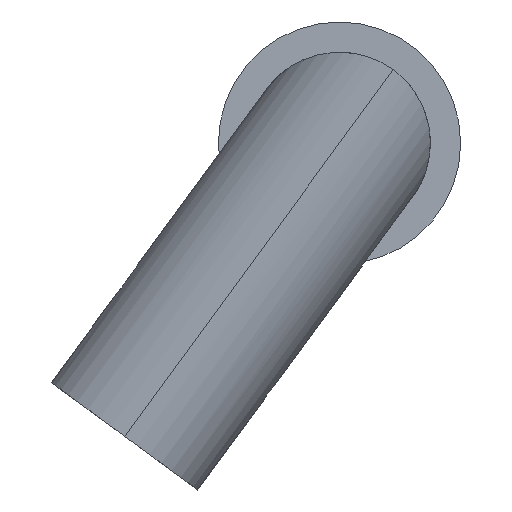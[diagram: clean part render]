
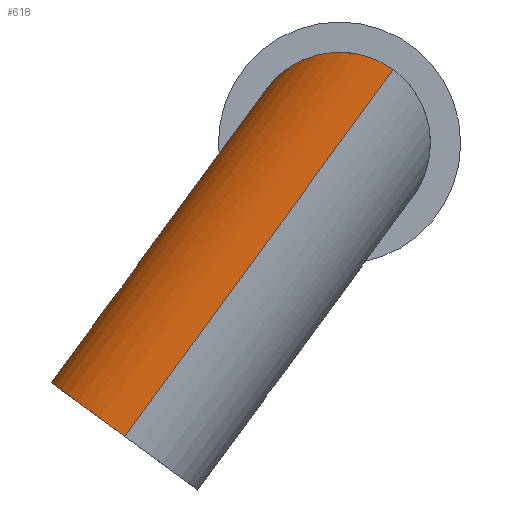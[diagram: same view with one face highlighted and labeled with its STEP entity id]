
A CAD part, left-side view. The second image highlights one B-rep face of the part: STEP entity #618.
In plain terms, the highlighted cylindrical face has radius 7.5 mm (diameter 15 mm), a partial arc.
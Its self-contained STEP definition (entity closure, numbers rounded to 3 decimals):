
#2 = VECTOR ( 'NONE', #1198, 1000. ) ;
#9 = ORIENTED_EDGE ( 'NONE', *, *, #496, .F. ) ;
#72 = CARTESIAN_POINT ( 'NONE',  ( -274.582, 17.444, -11.126 ) ) ;
#90 = CARTESIAN_POINT ( 'NONE',  ( -274.301, 18.086, -12.039 ) ) ;
#112 = CARTESIAN_POINT ( 'NONE',  ( -275.491, 17.482, -11.188 ) ) ;
#161 = LINE ( 'NONE', #322, #1306 ) ;
#187 = CARTESIAN_POINT ( 'NONE',  ( -274.301, 17.609, -11.389 ) ) ;
#191 = CARTESIAN_POINT ( 'NONE',  ( -275., 18.347, -12.341 ) ) ;
#205 = CARTESIAN_POINT ( 'NONE',  ( -275.699, 17.609, -11.39 ) ) ;
#219 = CARTESIAN_POINT ( 'NONE',  ( -275.713, 18.095, -12.052 ) ) ;
#222 = CARTESIAN_POINT ( 'NONE',  ( -275.492, 18.239, -12.22 ) ) ;
#247 = ORIENTED_EDGE ( 'NONE', *, *, #1271, .F. ) ;
#263 = DIRECTION ( 'NONE',  ( 1., 0., 0. ) ) ;
#282 = CARTESIAN_POINT ( 'NONE',  ( -267.5, 17.738, -24.195 ) ) ;
#286 = CARTESIAN_POINT ( 'NONE',  ( -274.221, 17.717, -11.55 ) ) ;
#289 = VERTEX_POINT ( 'NONE', #989 ) ;
#290 = CARTESIAN_POINT ( 'NONE',  ( -274.2, 17.776, -11.635 ) ) ;
#322 = CARTESIAN_POINT ( 'NONE',  ( -282.5, -4.937, 6.734 ) ) ;
#326 = DIRECTION ( 'NONE',  ( 0., 0.591, -0.806 ) ) ;
#379 = AXIS2_PLACEMENT_3D ( 'NONE', #633, #866, #263 ) ;
#391 = CARTESIAN_POINT ( 'NONE',  ( -274.2, 17.901, -11.805 ) ) ;
#405 = CARTESIAN_POINT ( 'NONE',  ( -275., 17.401, -11.05 ) ) ;
#408 = CARTESIAN_POINT ( 'NONE',  ( -275.403, 17.452, -11.138 ) ) ;
#420 = CARTESIAN_POINT ( 'NONE',  ( -282.5, 7.663, 14.917 ) ) ;
#436 = CARTESIAN_POINT ( 'NONE',  ( -282.5, -4.434, 6.049 ) ) ;
#448 = VERTEX_POINT ( 'NONE', #282 ) ;
#482 = VERTEX_POINT ( 'NONE', #1239 ) ;
#488 = EDGE_CURVE ( 'NONE', #482, #448, #1211, .T. ) ;
#492 = CARTESIAN_POINT ( 'NONE',  ( -274.581, 18.287, -12.276 ) ) ;
#496 = EDGE_CURVE ( 'NONE', #1233, #482, #161, .T. ) ;
#497 = CARTESIAN_POINT ( 'NONE',  ( -275.104, 17.401, -11.05 ) ) ;
#504 = CARTESIAN_POINT ( 'NONE',  ( -275.21, 18.332, -12.325 ) ) ;
#510 = CARTESIAN_POINT ( 'NONE',  ( -275.403, 18.279, -12.265 ) ) ;
#512 = DIRECTION ( 'NONE',  ( 0., 0.591, -0.806 ) ) ;
#537 = CARTESIAN_POINT ( 'NONE',  ( -275., 17.401, -11.05 ) ) ;
#566 = VERTEX_POINT ( 'NONE', #537 ) ;
#586 = EDGE_CURVE ( 'NONE', #289, #1233, #1035, .T. ) ;
#597 = ORIENTED_EDGE ( 'NONE', *, *, #488, .F. ) ;
#612 = DIRECTION ( 'NONE',  ( 1., 0., 0. ) ) ;
#618 = ADVANCED_FACE ( 'NONE', ( #764, #948 ), #1135, .T. ) ;
#633 = CARTESIAN_POINT ( 'NONE',  ( -275., -4.937, 6.734 ) ) ;
#675 = CARTESIAN_POINT ( 'NONE',  ( -274.361, 17.561, -11.314 ) ) ;
#681 = CARTESIAN_POINT ( 'NONE',  ( -275., 18.347, -12.341 ) ) ;
#690 = CARTESIAN_POINT ( 'NONE',  ( -275.8, 17.778, -11.637 ) ) ;
#700 = CARTESIAN_POINT ( 'NONE',  ( -275.8, 17.963, -11.889 ) ) ;
#707 = CARTESIAN_POINT ( 'NONE',  ( -275.779, 17.717, -11.551 ) ) ;
#719 = ORIENTED_EDGE ( 'NONE', *, *, #947, .T. ) ;
#750 = EDGE_LOOP ( 'NONE', ( #247, #1246 ) ) ;
#764 = FACE_OUTER_BOUND ( 'NONE', #967, .T. ) ;
#776 = CARTESIAN_POINT ( 'NONE',  ( -275., 17.401, -11.05 ) ) ;
#791 = CARTESIAN_POINT ( 'NONE',  ( -275., 18.347, -12.341 ) ) ;
#798 = LINE ( 'NONE', #1001, #2 ) ;
#813 = CARTESIAN_POINT ( 'NONE',  ( -275.106, 18.347, -12.341 ) ) ;
#866 = DIRECTION ( 'NONE',  ( 0., 0.591, -0.806 ) ) ;
#880 = CARTESIAN_POINT ( 'NONE',  ( -274.788, 18.347, -12.341 ) ) ;
#916 = CARTESIAN_POINT ( 'NONE',  ( -275.64, 17.562, -11.315 ) ) ;
#925 = CARTESIAN_POINT ( 'NONE',  ( -267.5, 4.434, -6.049 ) ) ;
#947 = EDGE_CURVE ( 'NONE', #289, #448, #798, .T. ) ;
#948 = FACE_BOUND ( 'NONE', #750, .T. ) ;
#956 = VERTEX_POINT ( 'NONE', #191 ) ;
#967 = EDGE_LOOP ( 'NONE', ( #9, #1206, #719, #597 ) ) ;
#989 = CARTESIAN_POINT ( 'NONE',  ( -267.5, 4.434, -6.049 ) ) ;
#1001 = CARTESIAN_POINT ( 'NONE',  ( -267.5, -4.937, 6.734 ) ) ;
#1002 = EDGE_CURVE ( 'NONE', #566, #956, #1037, .T. ) ;
#1007 = CARTESIAN_POINT ( 'NONE',  ( -282.5, -4.434, 6.049 ) ) ;
#1025 = B_SPLINE_CURVE_WITH_KNOTS ( 'NONE', 3,
 ( #791, #813, #504, #510, #222, #219, #700, #690, #707, #205, #916, #112, #408, #1120, #497, #405 ),
 .UNSPECIFIED., .F., .F.,
 ( 4, 2, 2, 2, 2, 2, 2, 4 ),
 ( 0., 0., 0.001, 0.001, 0.002, 0.002, 0.002, 0.003 ),
 .UNSPECIFIED. ) ;
#1035 =( BOUNDED_CURVE ( )  B_SPLINE_CURVE ( 3, ( #925, #1049, #420, #436 ),
 .UNSPECIFIED., .F., .T. ) 
 B_SPLINE_CURVE_WITH_KNOTS ( ( 4, 4 ),
 ( 3.142, 6.283 ),
 .UNSPECIFIED. ) 
 CURVE ( )  GEOMETRIC_REPRESENTATION_ITEM ( )  RATIONAL_B_SPLINE_CURVE ( ( 1., 0.333, 0.333, 1. ) ) 
 REPRESENTATION_ITEM ( '' )  );
#1037 = B_SPLINE_CURVE_WITH_KNOTS ( 'NONE', 3,
 ( #776, #1191, #72, #675, #187, #286, #290, #391, #1209, #90, #1113, #492, #880, #681 ),
 .UNSPECIFIED., .F., .F.,
 ( 4, 2, 2, 2, 2, 2, 4 ),
 ( 0.003, 0.003, 0.003, 0.004, 0.004, 0.004, 0.005 ),
 .UNSPECIFIED. ) ;
#1049 = CARTESIAN_POINT ( 'NONE',  ( -267.5, 16.532, 2.82 ) ) ;
#1113 = CARTESIAN_POINT ( 'NONE',  ( -274.36, 18.143, -12.108 ) ) ;
#1120 = CARTESIAN_POINT ( 'NONE',  ( -275.209, 17.411, -11.068 ) ) ;
#1135 = CYLINDRICAL_SURFACE ( 'NONE', #379, 7.5 ) ;
#1191 = CARTESIAN_POINT ( 'NONE',  ( -274.791, 17.401, -11.05 ) ) ;
#1198 = DIRECTION ( 'NONE',  ( 0., 0.591, -0.806 ) ) ;
#1206 = ORIENTED_EDGE ( 'NONE', *, *, #586, .F. ) ;
#1209 = CARTESIAN_POINT ( 'NONE',  ( -274.221, 17.965, -11.888 ) ) ;
#1211 = CIRCLE ( 'NONE', #1284, 7.5 ) ;
#1233 = VERTEX_POINT ( 'NONE', #1007 ) ;
#1239 = CARTESIAN_POINT ( 'NONE',  ( -282.5, 17.738, -24.195 ) ) ;
#1246 = ORIENTED_EDGE ( 'NONE', *, *, #1002, .F. ) ;
#1271 = EDGE_CURVE ( 'NONE', #956, #566, #1025, .T. ) ;
#1284 = AXIS2_PLACEMENT_3D ( 'NONE', #1315, #326, #612 ) ;
#1306 = VECTOR ( 'NONE', #512, 1000. ) ;
#1315 = CARTESIAN_POINT ( 'NONE',  ( -275., 17.738, -24.195 ) ) ;
